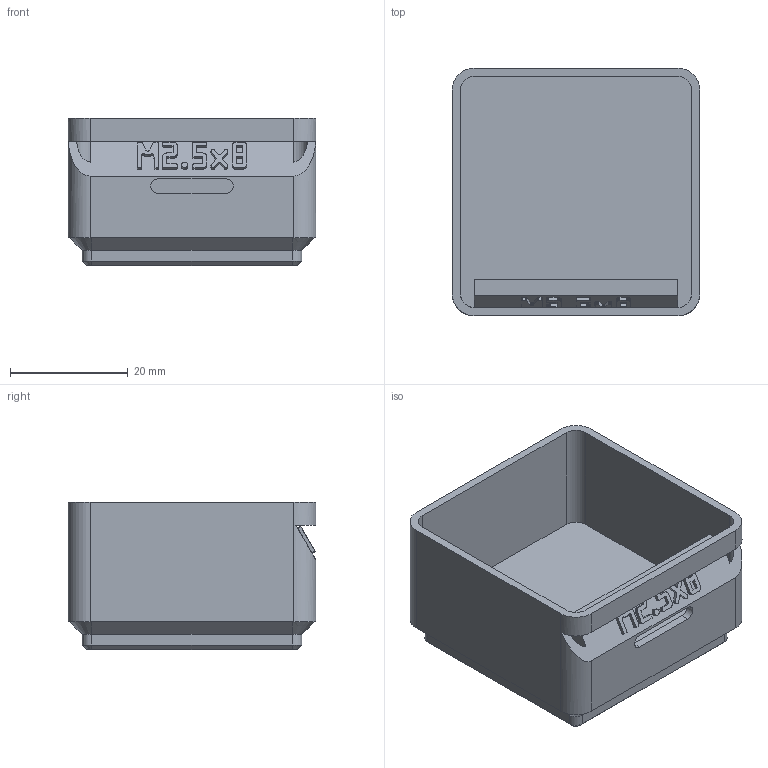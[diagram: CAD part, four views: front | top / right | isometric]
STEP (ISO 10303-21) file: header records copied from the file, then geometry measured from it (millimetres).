
FILE_DESCRIPTION(('Open CASCADE Model'),'2;1');
FILE_NAME('Open CASCADE Shape Model','2026-11-03T17:13:44',('Author'),( 'Open CASCADE'),'Open CASCADE STEP processor 8.0','build123d', 'Unknown');
FILE_SCHEMA(('AUTOMOTIVE_DESIGN { 1 0 10303 214 1 1 1 1 }'));
Length unit declared in the file: millimetre
Products named in the file (1): COMPOUND
Bounding box: 42 x 42 x 25 mm (x, y, z)
Volume: 13728.6 mm3; surface area: 10547.7 mm2
Topology: 1 solids, 1 shells, 568 faces, 1656 edges, 1098 vertices
Faces by surface type: plane 546, cylinder 14, cone 8
Entity records: 38882 total; most frequent: CARTESIAN_POINT 7827, DIRECTION 5026, LINE 3772, VECTOR 3772, ORIENTED_EDGE 3312, PCURVE 3312, DEFINITIONAL_REPRESENTATION 3312, EDGE_CURVE 1656
